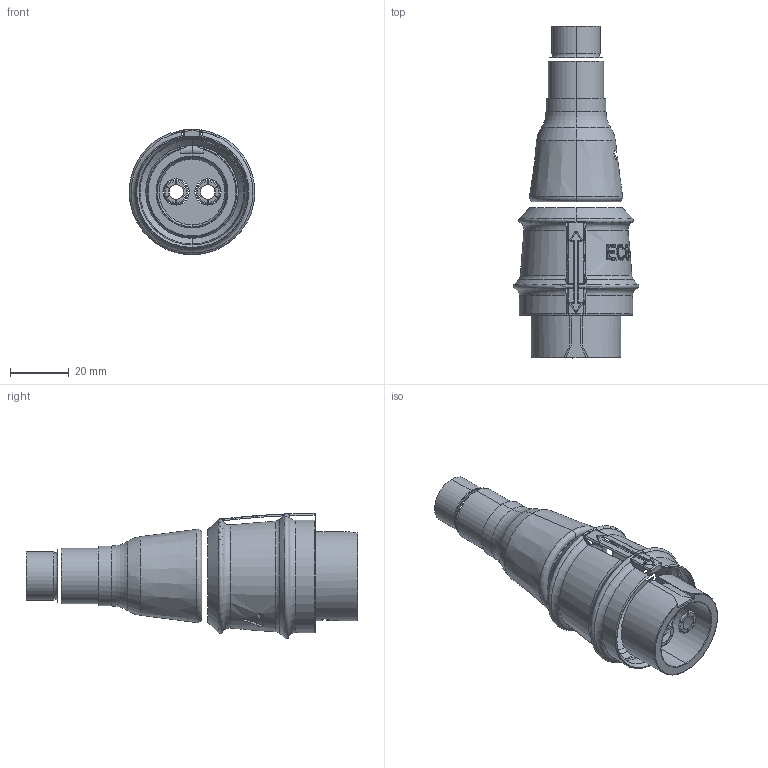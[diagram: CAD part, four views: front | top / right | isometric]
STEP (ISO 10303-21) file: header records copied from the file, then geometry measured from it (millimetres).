
FILE_DESCRIPTION((''),'2;1');
FILE_NAME('LCN-EC8X2-INLM_ASM','2025-06-27T12:48:50',('Neil'),(''),'CREO PARAMETRIC BY PTC INC, 2023134','CREO PARAMETRIC BY PTC INC, 2023134','');
FILE_SCHEMA(('AUTOMOTIVE_DESIGN { 1 0 10303 214 1 1 1 1 }'));
Length unit declared in the file: millimetre
Products named in the file (1): LCN-EC8X2-INLM_ASM
Bounding box: 42.89 x 113.42 x 42.88 mm (x, y, z)
Surface area: 16528.2 mm2 (no closed solid volume)
Topology: 0 solids, 30 shells, 89 faces, 546 edges, 481 vertices
Faces by surface type: torus 35, plane 17, cylinder 13, bspline 13, cone 11
Entity records: 8636 total; most frequent: CARTESIAN_POINT 4553, ORIENTED_EDGE 632, EDGE_CURVE 546, DIRECTION 534, VERTEX_POINT 481, B_SPLINE_CURVE_WITH_KNOTS 325, AXIS2_PLACEMENT_3D 236, CIRCLE 159
